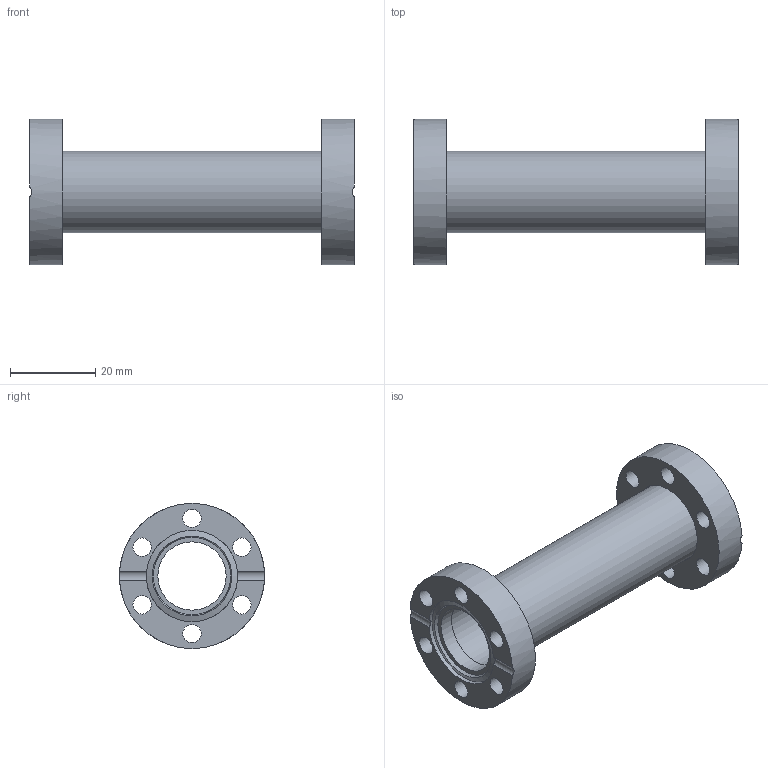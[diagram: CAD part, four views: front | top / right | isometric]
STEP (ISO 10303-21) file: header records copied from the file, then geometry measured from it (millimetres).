
FILE_DESCRIPTION( ( 'Unknown' ), '1' );
FILE_NAME( 'X:/Daten ( aktueller Bestand )/Projekte und Zeichnungen/Solid Edge/STP-Dateien/CF-Teile/7171F4.stp', 'Unknown', ( 'Unknown' ), ( 'Unknown' ), 'PSStep 14.0', 'Unknown', ' ' );
FILE_SCHEMA( ( 'AUTOMOTIVE_DESIGN { 1 0 10303 214 1 1 1 1 }' ) );
Length unit declared in the file: millimetre
Products named in the file (5): 7171F-1; 7161F-2; Assem1
Assembly tree (5 placements, depth 3):
  Assem1
    7171F-1
      7171F-1
    7161F-2  x2
      7161F-2
Bounding box: 76 x 34 x 34 mm (x, y, z)
Volume: 14024.8 mm3; surface area: 13706.6 mm2
Topology: 3 solids, 3 shells, 42 faces, 110 edges, 76 vertices
Faces by surface type: cylinder 26, plane 12, cone 4
Full cylindrical faces by diameter (mm): 4.3 x12, 16 x3, 19 x1, 19.5 x2, 21.4 x2, 34 x2
Entity records: 940 total; most frequent: CARTESIAN_POINT 151, DIRECTION 122, ORIENTED_EDGE 72, AXIS2_PLACEMENT_3D 59, EDGE_LOOP 54, EDGE_CURVE 36, FACE_OUTER_BOUND 35, VERTEX_POINT 32
